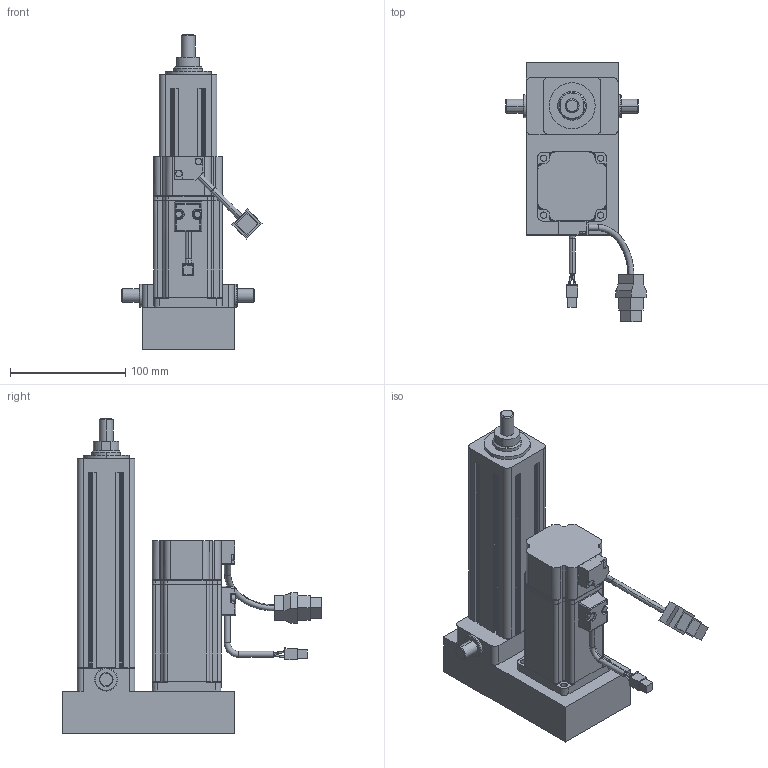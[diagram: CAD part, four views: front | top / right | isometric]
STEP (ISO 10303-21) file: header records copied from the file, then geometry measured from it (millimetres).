
FILE_DESCRIPTION (( 'STEP AP203' ), '1' );
FILE_NAME ('S1殏殿嫉粣假蚾.STEP', '2024-05-27T05:03:04', ( '' ), ( '' ), 'SwSTEP 2.0', 'SolidWorks 2018', '' );
FILE_SCHEMA (( 'CONFIG_CONTROL_DESIGN' ));
Length unit declared in the file: millimetre
Products named in the file (3): S1殏殿嫉粣假蚾; EC; S1殏殿嫉粣
Assembly tree (2 placements, depth 2):
  S1殏殿嫉粣假蚾
    S1殏殿嫉粣
    EC
Bounding box: 121.74 x 225.37 x 274 mm (x, y, z)
Volume: 1176113 mm3; surface area: 193800.5 mm2
Topology: 2 solids, 9 shells, 614 faces, 1514 edges, 944 vertices
Faces by surface type: plane 319, cylinder 224, cone 42, bspline 11, torus 10, sphere 8
Entity records: 19733 total; most frequent: CARTESIAN_POINT 5061, ORIENTED_EDGE 3024, DIRECTION 2921, EDGE_CURVE 1512, AXIS2_PLACEMENT_3D 1000, VERTEX_POINT 944, VECTOR 921, LINE 921
